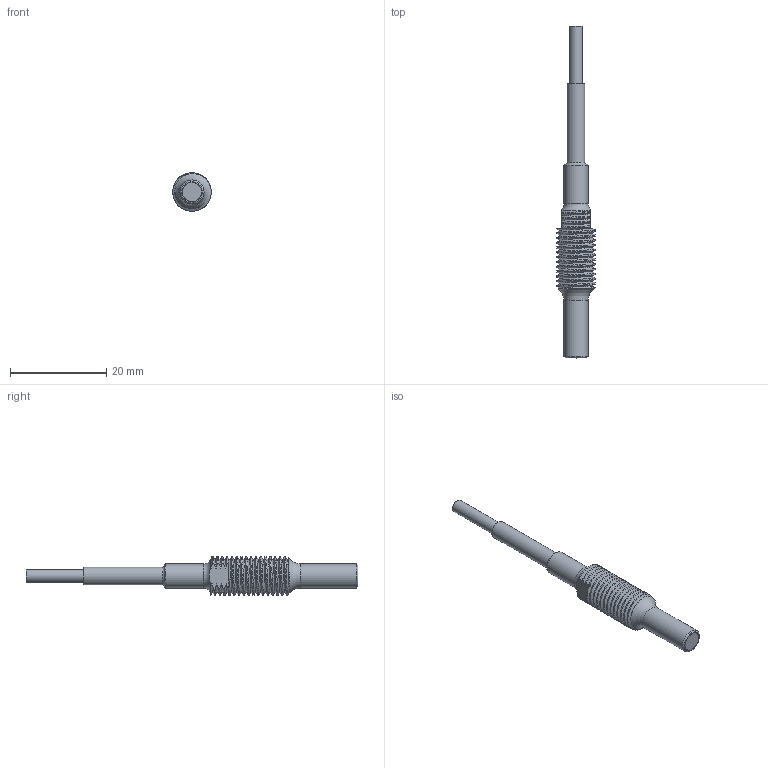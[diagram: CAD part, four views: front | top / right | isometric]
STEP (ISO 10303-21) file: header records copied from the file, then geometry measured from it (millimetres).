
FILE_DESCRIPTION( ( 'STEP AP203' ), '1' );
FILE_NAME( 'N:/Engineering/CAD_Solid/Wirbelstrom/Wirbelstromsensoren/T2/T1-G-KA-M805.stp', '2012-11-27T10:11:56', ( ' ' ), ( ' ' ), 'XStep 1.0', ' ', ' ' );
FILE_SCHEMA( ( 'CONFIG_CONTROL_DESIGN) ( )' ) );
Length unit declared in the file: metre
Products named in the file (5): 1; 2; 3; 4; 5
Bounding box: 8 x 69.1 x 8 mm (x, y, z)
Surface area: 1959.8 mm2 (no closed solid volume)
Topology: 0 solids, 59 shells, 59 faces, 298 edges, 271 vertices
Faces by surface type: bspline 26, cylinder 15, plane 13, torus 4, cone 1
Full cylindrical faces by diameter (mm): 2.7 x2, 3.7 x1, 4 x1, 4.1 x1, 5 x2
Entity records: 82544 total; most frequent: CARTESIAN_POINT 80750, ORIENTED_EDGE 268, EDGE_CURVE 268, VERTEX_POINT 268, DIRECTION 200, B_SPLINE_CURVE_WITH_KNOTS 120, AXIS2_PLACEMENT_3D 82, FACE_BOUND 78
